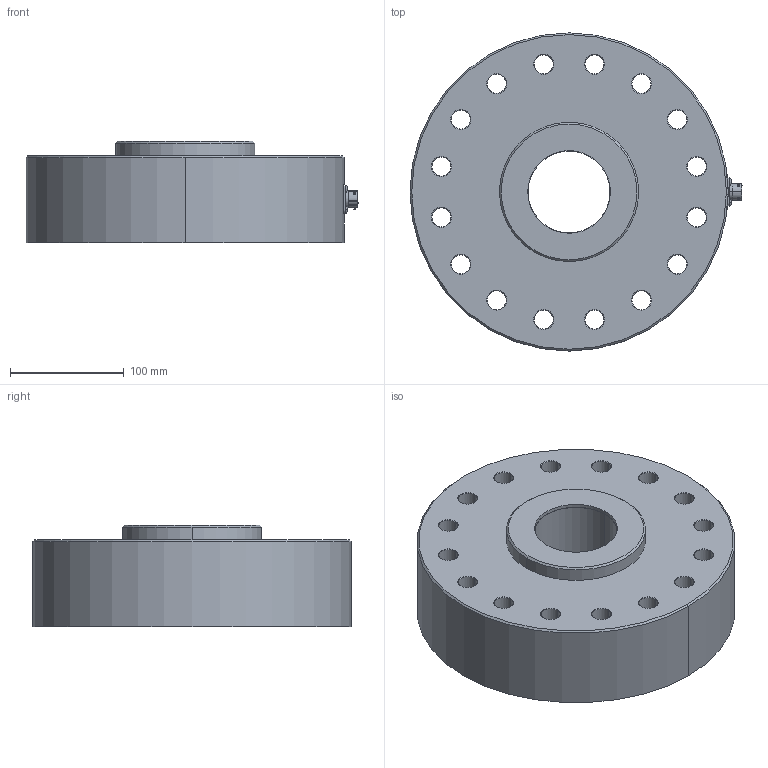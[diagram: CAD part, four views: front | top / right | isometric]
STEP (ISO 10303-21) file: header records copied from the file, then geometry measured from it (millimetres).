
FILE_DESCRIPTION (( 'STEP AP203' ), '1' );
FILE_NAME ('Interface 1240-900KN.STEP', '2011-06-07T17:49:34', ( ' ' ), ( '' ), 'SwSTEP 2.0', 'SolidWorks 2002349', '' );
FILE_SCHEMA (( 'CONFIG_CONTROL_DESIGN' ));
Length unit declared in the file: inch
Products named in the file (1): Interface 1240-900KN
Bounding box: 291.48 x 279.3 x 88.9 mm (x, y, z)
Volume: 4153928.5 mm3; surface area: 264632.1 mm2
Topology: 1 solids, 1 shells, 254 faces, 605 edges, 384 vertices
Faces by surface type: cylinder 104, plane 79, cone 46, bspline 22, sphere 3
Entity records: 8153 total; most frequent: CARTESIAN_POINT 2226, DIRECTION 1230, ORIENTED_EDGE 1210, EDGE_CURVE 605, AXIS2_PLACEMENT_3D 494, VERTEX_POINT 384, EDGE_LOOP 319, CIRCLE 261
